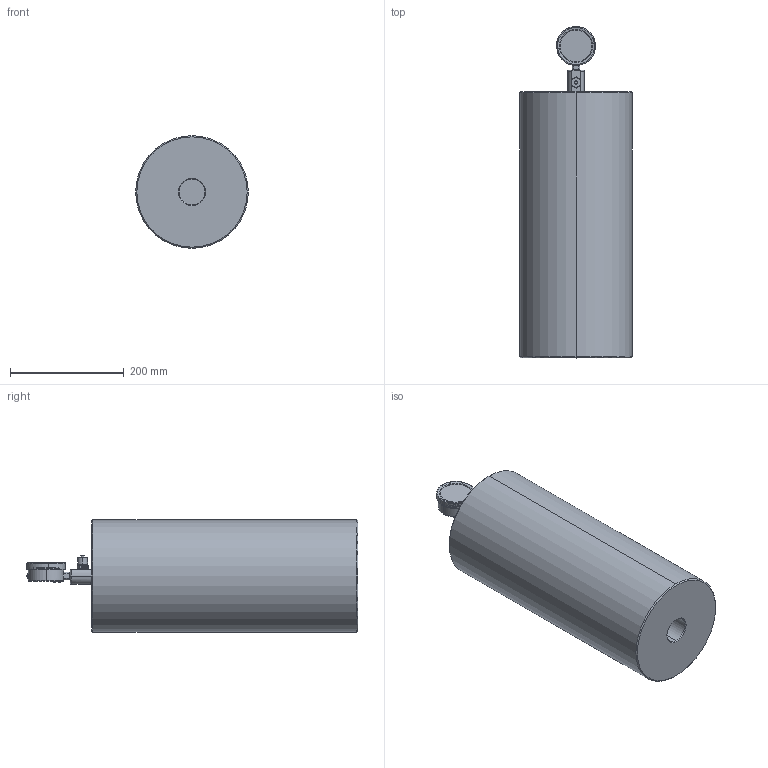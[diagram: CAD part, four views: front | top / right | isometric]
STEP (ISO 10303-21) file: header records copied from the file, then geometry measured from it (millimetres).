
FILE_DESCRIPTION (( 'STEP AP214' ), '1' );
FILE_NAME ('U060A01X1-PC_PD_PP (DGA).STEP', '2025-04-08T14:22:10', ( '' ), ( '' ), 'SwSTEP 2.0', 'SolidWorks 2024', '' );
FILE_SCHEMA (( 'AUTOMOTIVE_DESIGN' ));
Length unit declared in the file: millimetre
Products named in the file (1): U060A01X1-PC_PD_PP (DGA)
Bounding box: 198 x 583.4 x 198 mm (x, y, z)
Surface area: 449338.2 mm2 (no closed solid volume)
Topology: 0 solids, 18 shells, 799 faces, 2603 edges, 1764 vertices
Faces by surface type: plane 308, cylinder 188, bspline 187, cone 68, torus 38, sphere 10
Entity records: 60703 total; most frequent: CARTESIAN_POINT 31288, ORIENTED_EDGE 4410, DIRECTION 3540, EDGE_CURVE 2601, VERTEX_POINT 1764, VECTOR 1394, LINE 1394, AXIS2_PLACEMENT_3D 1073
